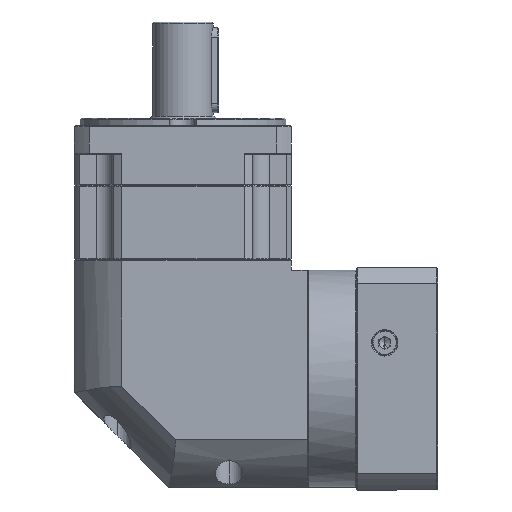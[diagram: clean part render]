
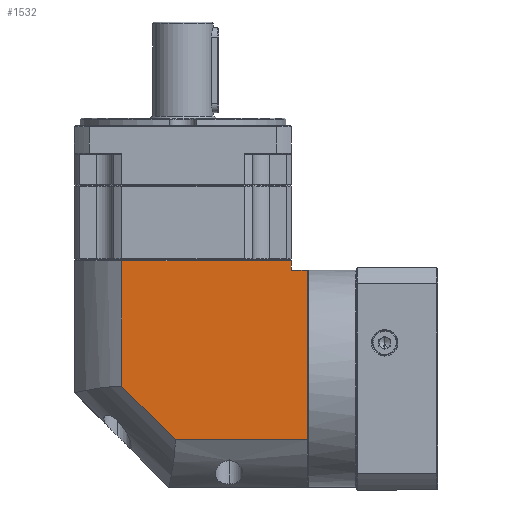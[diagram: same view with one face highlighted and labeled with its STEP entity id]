
A CAD part, left-side view. The second image highlights one B-rep face of the part: STEP entity #1532.
In plain terms, the highlighted planar face has unit normal (-1, 0, 0).
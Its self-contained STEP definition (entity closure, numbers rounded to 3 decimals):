
#1532 = ADVANCED_FACE ( 'NONE', ( #109423 ), #128701, .F. ) ;
#2936 = CARTESIAN_POINT ( 'NONE',  ( -296.473, 11.478, -31.687 ) ) ;
#3921 = DIRECTION ( 'NONE',  ( 0., 0.707, 0.707 ) ) ;
#4363 = VERTEX_POINT ( 'NONE', #100432 ) ;
#4706 = VERTEX_POINT ( 'NONE', #92085 ) ;
#5267 = CARTESIAN_POINT ( 'NONE',  ( -296.473, -86.822, 41.375 ) ) ;
#7955 = ORIENTED_EDGE ( 'NONE', *, *, #128742, .F. ) ;
#9367 = LINE ( 'NONE', #133653, #45172 ) ;
#9720 = EDGE_CURVE ( 'NONE', #155826, #120590, #148060, .T. ) ;
#14646 = VERTEX_POINT ( 'NONE', #2936 ) ;
#15243 = DIRECTION ( 'NONE',  ( 0., -1., 0. ) ) ;
#17476 = CARTESIAN_POINT ( 'NONE',  ( -296.473, -16.861, -60.025 ) ) ;
#18099 = LINE ( 'NONE', #67351, #156886 ) ;
#19098 = EDGE_CURVE ( 'NONE', #4706, #26022, #124552, .T. ) ;
#21420 = VECTOR ( 'NONE', #79982, 1000. ) ;
#21647 = CARTESIAN_POINT ( 'NONE',  ( -296.473, 36.578, 41.375 ) ) ;
#23306 = VERTEX_POINT ( 'NONE', #94132 ) ;
#24518 = ORIENTED_EDGE ( 'NONE', *, *, #91508, .T. ) ;
#26022 = VERTEX_POINT ( 'NONE', #64734 ) ;
#32914 = DIRECTION ( 'NONE',  ( 0., 0., -1. ) ) ;
#35168 = DIRECTION ( 'NONE',  ( 0., 1., 0. ) ) ;
#39551 = DIRECTION ( 'NONE',  ( 0., 0., 1. ) ) ;
#45172 = VECTOR ( 'NONE', #39551, 1000. ) ;
#49929 = EDGE_CURVE ( 'NONE', #14646, #4363, #18099, .T. ) ;
#51796 = CARTESIAN_POINT ( 'NONE',  ( -296.473, -78.422, 29.875 ) ) ;
#54756 = EDGE_CURVE ( 'NONE', #4363, #23306, #98146, .T. ) ;
#55509 = VECTOR ( 'NONE', #3921, 1000. ) ;
#59696 = LINE ( 'NONE', #17476, #55509 ) ;
#64734 = CARTESIAN_POINT ( 'NONE',  ( -296.473, -16.861, -60.025 ) ) ;
#66115 = VECTOR ( 'NONE', #32914, 1000. ) ;
#67351 = CARTESIAN_POINT ( 'NONE',  ( -296.473, 11.478, 41.375 ) ) ;
#68137 = DIRECTION ( 'NONE',  ( 0., 1., 0. ) ) ;
#68404 = ORIENTED_EDGE ( 'NONE', *, *, #106438, .F. ) ;
#70285 = LINE ( 'NONE', #5267, #66115 ) ;
#71366 = ORIENTED_EDGE ( 'NONE', *, *, #19098, .F. ) ;
#79982 = DIRECTION ( 'NONE',  ( 0., 1., 0. ) ) ;
#80881 = DIRECTION ( 'NONE',  ( 0., 0., 1. ) ) ;
#91508 = EDGE_CURVE ( 'NONE', #120590, #23306, #9367, .T. ) ;
#92085 = CARTESIAN_POINT ( 'NONE',  ( -296.473, -86.822, -60.025 ) ) ;
#94132 = CARTESIAN_POINT ( 'NONE',  ( -296.473, -78.422, 34.875 ) ) ;
#96332 = CARTESIAN_POINT ( 'NONE',  ( -296.473, 36.578, 34.875 ) ) ;
#97976 = ORIENTED_EDGE ( 'NONE', *, *, #54756, .F. ) ;
#98146 = LINE ( 'NONE', #96332, #169612 ) ;
#100432 = CARTESIAN_POINT ( 'NONE',  ( -296.473, 11.478, 34.875 ) ) ;
#106438 = EDGE_CURVE ( 'NONE', #26022, #14646, #59696, .T. ) ;
#109423 = FACE_OUTER_BOUND ( 'NONE', #116527, .T. ) ;
#115746 = DIRECTION ( 'NONE',  ( 1., 0., 0. ) ) ;
#116527 = EDGE_LOOP ( 'NONE', ( #117756, #68404, #71366, #7955, #158453, #24518, #97976 ) ) ;
#117756 = ORIENTED_EDGE ( 'NONE', *, *, #49929, .F. ) ;
#120590 = VERTEX_POINT ( 'NONE', #51796 ) ;
#124552 = LINE ( 'NONE', #160596, #21420 ) ;
#128701 = PLANE ( 'NONE',  #132183 ) ;
#128742 = EDGE_CURVE ( 'NONE', #155826, #4706, #70285, .T. ) ;
#132183 = AXIS2_PLACEMENT_3D ( 'NONE', #21647, #115746, #35168 ) ;
#133653 = CARTESIAN_POINT ( 'NONE',  ( -296.473, -78.422, -85.125 ) ) ;
#133688 = CARTESIAN_POINT ( 'NONE',  ( -296.473, -86.822, 29.875 ) ) ;
#143829 = VECTOR ( 'NONE', #68137, 1000. ) ;
#148060 = LINE ( 'NONE', #162826, #143829 ) ;
#155826 = VERTEX_POINT ( 'NONE', #133688 ) ;
#156886 = VECTOR ( 'NONE', #80881, 1000. ) ;
#158453 = ORIENTED_EDGE ( 'NONE', *, *, #9720, .T. ) ;
#160596 = CARTESIAN_POINT ( 'NONE',  ( -296.473, 36.578, -60.025 ) ) ;
#162826 = CARTESIAN_POINT ( 'NONE',  ( -296.473, -78.422, 29.875 ) ) ;
#169612 = VECTOR ( 'NONE', #15243, 1000. ) ;
